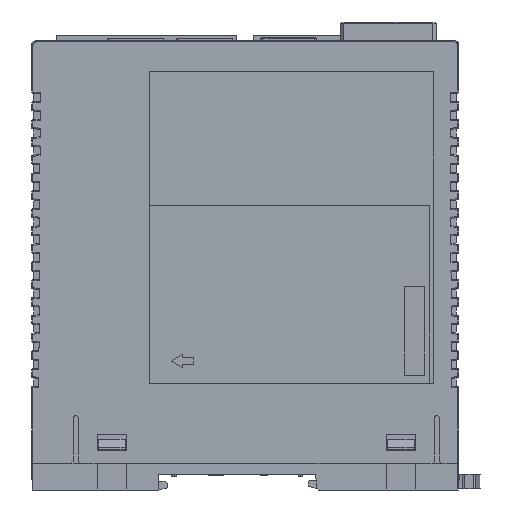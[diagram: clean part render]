
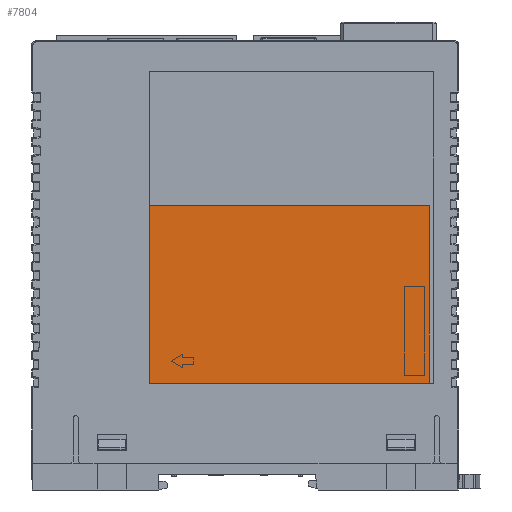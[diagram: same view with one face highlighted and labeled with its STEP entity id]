
A CAD part, left-side view. The second image highlights one B-rep face of the part: STEP entity #7804.
In plain terms, the highlighted planar face has unit normal (-1, 0, 0).
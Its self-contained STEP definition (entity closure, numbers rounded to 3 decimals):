
#1489 = FACE_OUTER_BOUND ( 'NONE', #4750, .T. ) ;
#2570 = EDGE_CURVE ( 'NONE', #185330, #154413, #47892, .T. ) ;
#4750 = EDGE_LOOP ( 'NONE', ( #153227, #55269, #195322, #156033 ) ) ;
#7804 = ADVANCED_FACE ( 'NONE', ( #1489 ), #76458, .F. ) ;
#19251 = VECTOR ( 'NONE', #207533, 1000. ) ;
#39723 = CARTESIAN_POINT ( 'NONE',  ( -24.73, 21.6, 58. ) ) ;
#42633 = EDGE_CURVE ( 'NONE', #154413, #223666, #175359, .T. ) ;
#47892 = LINE ( 'NONE', #56721, #142265 ) ;
#49846 = DIRECTION ( 'NONE',  ( 0., 0., -1. ) ) ;
#55269 = ORIENTED_EDGE ( 'NONE', *, *, #42633, .F. ) ;
#56721 = CARTESIAN_POINT ( 'NONE',  ( -24.73, 21.6, 58. ) ) ;
#57502 = CARTESIAN_POINT ( 'NONE',  ( -24.73, -41.4, 18. ) ) ;
#59619 = DIRECTION ( 'NONE',  ( 0., 1., 0. ) ) ;
#75372 = LINE ( 'NONE', #226504, #19251 ) ;
#76458 = PLANE ( 'NONE',  #171475 ) ;
#97392 = VERTEX_POINT ( 'NONE', #199995 ) ;
#99937 = CARTESIAN_POINT ( 'NONE',  ( -24.73, -41.4, 58. ) ) ;
#114420 = DIRECTION ( 'NONE',  ( 0., 0., -1. ) ) ;
#121653 = EDGE_CURVE ( 'NONE', #97392, #185330, #75372, .T. ) ;
#135091 = CARTESIAN_POINT ( 'NONE',  ( -24.73, -41.4, 18. ) ) ;
#142265 = VECTOR ( 'NONE', #169643, 1000. ) ;
#153227 = ORIENTED_EDGE ( 'NONE', *, *, #215588, .F. ) ;
#154413 = VERTEX_POINT ( 'NONE', #99937 ) ;
#156033 = ORIENTED_EDGE ( 'NONE', *, *, #121653, .F. ) ;
#158947 = LINE ( 'NONE', #172536, #209057 ) ;
#162851 = CARTESIAN_POINT ( 'NONE',  ( -24.73, -41.4, 58. ) ) ;
#169643 = DIRECTION ( 'NONE',  ( 0., -1., 0. ) ) ;
#171475 = AXIS2_PLACEMENT_3D ( 'NONE', #57502, #227319, #114420 ) ;
#172536 = CARTESIAN_POINT ( 'NONE',  ( -24.73, 21.6, 18. ) ) ;
#175359 = LINE ( 'NONE', #162851, #181270 ) ;
#181270 = VECTOR ( 'NONE', #49846, 1000. ) ;
#185330 = VERTEX_POINT ( 'NONE', #39723 ) ;
#195322 = ORIENTED_EDGE ( 'NONE', *, *, #2570, .F. ) ;
#199995 = CARTESIAN_POINT ( 'NONE',  ( -24.73, 21.6, 18. ) ) ;
#207533 = DIRECTION ( 'NONE',  ( 0., 0., 1. ) ) ;
#209057 = VECTOR ( 'NONE', #59619, 1000. ) ;
#215588 = EDGE_CURVE ( 'NONE', #223666, #97392, #158947, .T. ) ;
#223666 = VERTEX_POINT ( 'NONE', #135091 ) ;
#226504 = CARTESIAN_POINT ( 'NONE',  ( -24.73, 21.6, 58. ) ) ;
#227319 = DIRECTION ( 'NONE',  ( 1., 0., 0. ) ) ;
